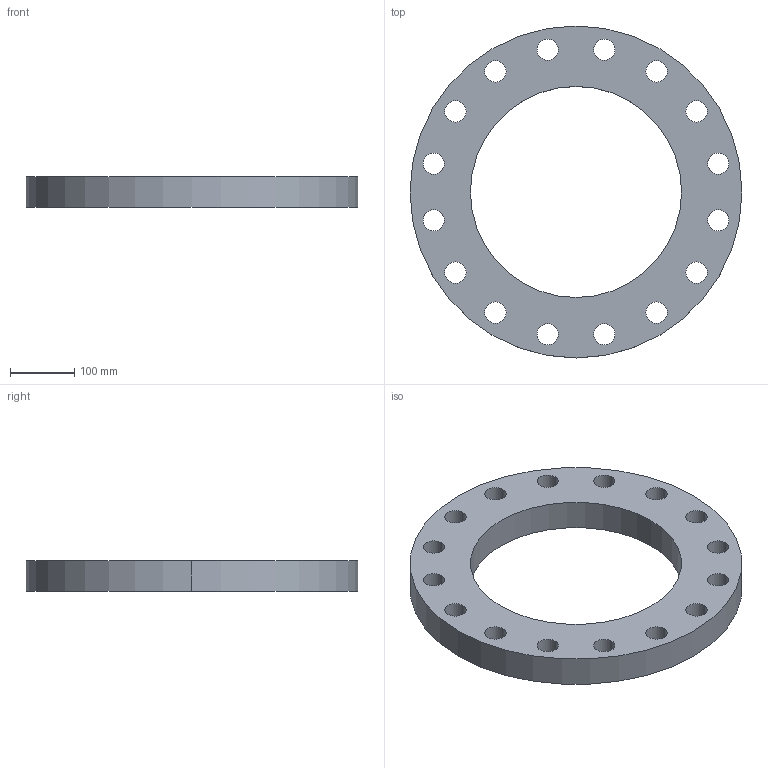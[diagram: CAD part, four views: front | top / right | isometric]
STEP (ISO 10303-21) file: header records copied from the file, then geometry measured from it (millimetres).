
FILE_DESCRIPTION (( 'STEP AP214' ), '1' );
FILE_NAME ('PN40 DN300 Type 01 - Type A Face.STEP', '2019-01-05T20:31:28', ( '' ), ( '' ), 'SwSTEP 2.0', 'SolidWorks 2019', '' );
FILE_SCHEMA (( 'AUTOMOTIVE_DESIGN' ));
Length unit declared in the file: millimetre
Products named in the file (1): PN40 DN300 Type 01 - Type A Face
Bounding box: 515 x 515 x 48 mm (x, y, z)
Volume: 5298412.2 mm3; surface area: 427433.7 mm2
Topology: 1 solids, 1 shells, 38 faces, 108 edges, 72 vertices
Faces by surface type: cylinder 36, plane 2
Entity records: 1386 total; most frequent: DIRECTION 258, CARTESIAN_POINT 219, ORIENTED_EDGE 216, AXIS2_PLACEMENT_3D 111, EDGE_CURVE 108, EDGE_LOOP 72, VERTEX_POINT 72, CIRCLE 72
